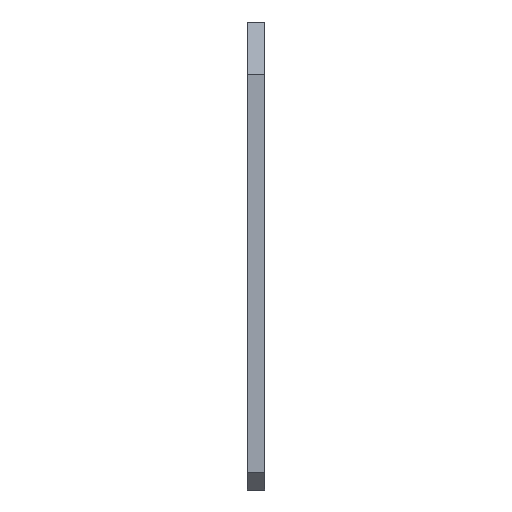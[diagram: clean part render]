
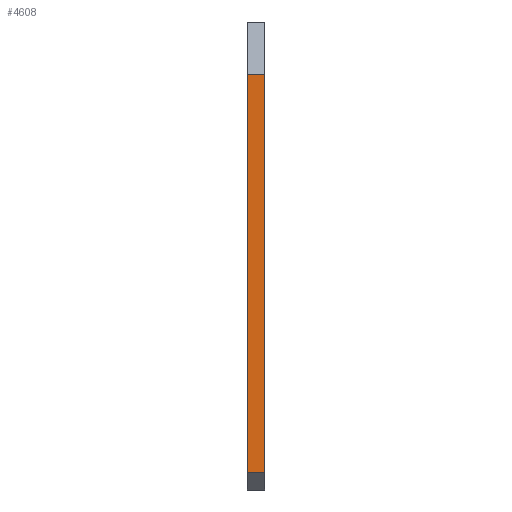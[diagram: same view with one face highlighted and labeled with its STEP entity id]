
A CAD part, left-side view. The second image highlights one B-rep face of the part: STEP entity #4608.
In plain terms, the highlighted planar face has unit normal (-1, 0, 0).
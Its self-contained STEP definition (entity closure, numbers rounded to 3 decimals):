
#467=FACE_OUTER_BOUND('',#945,.T.);
#945=EDGE_LOOP('',(#3542,#3543,#3544,#3545));
#1474=LINE('',#6747,#1762);
#1516=LINE('',#7144,#1804);
#1573=LINE('',#7565,#1861);
#1574=LINE('',#7566,#1862);
#1762=VECTOR('',#5365,1000.);
#1804=VECTOR('',#5721,1000.);
#1861=VECTOR('',#6122,1000.);
#1862=VECTOR('',#6123,1000.);
#2050=VERTEX_POINT('',#6745);
#2051=VERTEX_POINT('',#6746);
#2248=VERTEX_POINT('',#7141);
#2249=VERTEX_POINT('',#7143);
#2466=EDGE_CURVE('',#2050,#2051,#1474,.T.);
#2664=EDGE_CURVE('',#2249,#2248,#1516,.T.);
#2877=EDGE_CURVE('',#2248,#2051,#1573,.T.);
#2878=EDGE_CURVE('',#2050,#2249,#1574,.T.);
#3542=ORIENTED_EDGE('',*,*,#2664,.T.);
#3543=ORIENTED_EDGE('',*,*,#2877,.T.);
#3544=ORIENTED_EDGE('',*,*,#2466,.F.);
#3545=ORIENTED_EDGE('',*,*,#2878,.T.);
#4344=PLANE('',#5144);
#4608=ADVANCED_FACE('',(#467),#4344,.F.);
#5144=AXIS2_PLACEMENT_3D('',#7564,#6120,#6121);
#5365=DIRECTION('',(0.,0.,-1.));
#5721=DIRECTION('',(0.,0.,-1.));
#6120=DIRECTION('center_axis',(1.,0.,0.));
#6121=DIRECTION('ref_axis',(0.,0.,-1.));
#6122=DIRECTION('',(0.,-1.,0.));
#6123=DIRECTION('',(0.,1.,0.));
#6745=CARTESIAN_POINT('',(-275.,-2.5,10.));
#6746=CARTESIAN_POINT('',(-275.,-2.5,-105.));
#6747=CARTESIAN_POINT('',(-275.,-2.5,25.));
#7141=CARTESIAN_POINT('',(-275.,2.5,-105.));
#7143=CARTESIAN_POINT('',(-275.,2.5,10.));
#7144=CARTESIAN_POINT('',(-275.,2.5,25.));
#7564=CARTESIAN_POINT('Origin',(-275.,-2.5,25.));
#7565=CARTESIAN_POINT('',(-275.,-2.5,-105.));
#7566=CARTESIAN_POINT('',(-275.,-2.5,10.));
